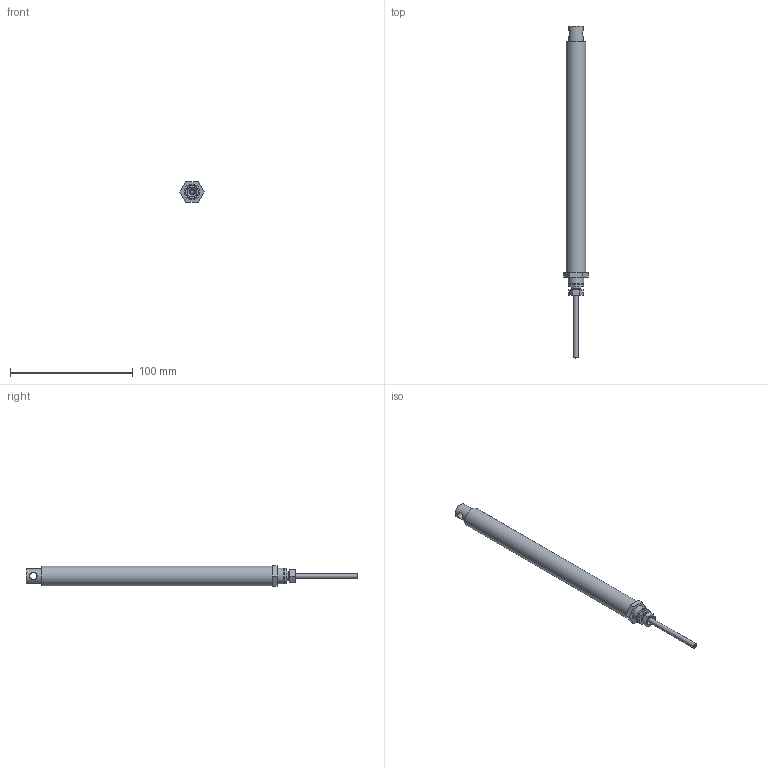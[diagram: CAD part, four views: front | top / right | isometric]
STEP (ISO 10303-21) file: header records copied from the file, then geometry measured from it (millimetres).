
FILE_DESCRIPTION(/* description */ ('Unknown'),/* implementation_level */ '2;1');
FILE_NAME(/* name */ '107.00161 Zylinder CI 1415_eingefahren',/* time_stamp */ '2018-07-06T17:41:46+02:00',/* author */ ('Unknown'),/* organization */ ('Unknown'),/* preprocessor_version */ 'ST-DEVELOPER v16.7',/* originating_system */ 'DEX',/* authorisation */ $);
FILE_SCHEMA (('AUTOMOTIVE_DESIGN {1 0 10303 214 3 1 1}'));
Length unit declared in the file: millimetre
Products named in the file (9): 107.00161; 121.00001; 142.00021; 125.00021; 115.00007_oa_0; 125.00031; 120.00001; 122.00001; 113.00002_70mm
Assembly tree (8 placements, depth 2):
  107.00161
    121.00001
    142.00021
    125.00021
    115.00007_oa_0
    125.00031
    120.00001
    122.00001
    113.00002_70mm
Bounding box: 19.63 x 271 x 17 mm (x, y, z)
Volume: 33557.7 mm3; surface area: 30407 mm2
Topology: 7 solids, 7 shells, 88 faces, 175 edges, 112 vertices
Faces by surface type: plane 37, cylinder 27, cone 21, torus 2, sphere 1
Full cylindrical faces by diameter (mm): 2.2 x1, 3.5 x1, 4 x1, 4.1 x1, 4.2 x1, 6 x1, 6.917 x2, 7.763 x2, 8 x3, 8.1 x3, 9 x1, 12 x2, 12.5 x1, 13 x2, 13.9 x2, 14 x2, 16 x1
Entity records: 2630 total; most frequent: CARTESIAN_POINT 394, DIRECTION 372, ORIENTED_EDGE 242, AXIS2_PLACEMENT_3D 168, FACE_BOUND 157, EDGE_LOOP 156, EDGE_CURVE 121, VERTEX_POINT 104
